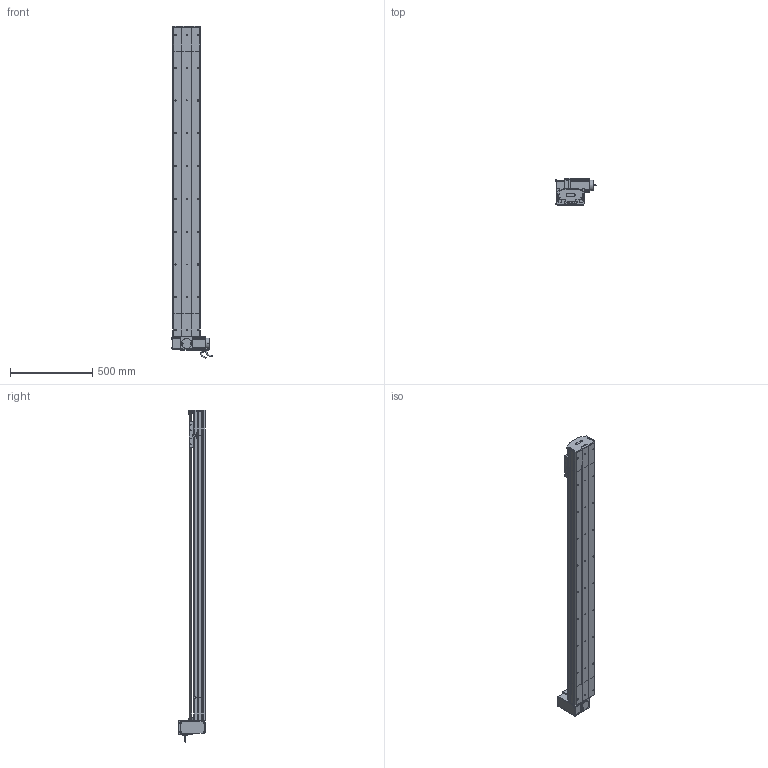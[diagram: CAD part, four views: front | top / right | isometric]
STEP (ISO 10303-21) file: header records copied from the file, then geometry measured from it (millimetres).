
FILE_DESCRIPTION (( 'STEP AP214' ), '1' );
FILE_NAME ('D17 TBH RT S1600.STEP', '2010-06-30T08:11:57', ( 'Christophe Gaillard' ), ( 'SGA' ), 'SwSTEP 2.0', 'SolidWorks 2010', '' );
FILE_SCHEMA (( 'AUTOMOTIVE_DESIGN' ));
Length unit declared in the file: millimetre
Products named in the file (40): codeur 90BLDC125-640; Moteur motionking 90BLDC125A-640; corps 90BLDC125A-640; vis M5 L5_Default; D17 TBH RT S1600; cache D17_Default; course 1600 D17B_Default; Couroie+ rail D17 Course 1600 ; Arbre+rail head D17B; plaque de  bout head D17B RT_Default; couvercle D17B head_Default; corp D17B 1600_Default; couroie head D17_Default; corpl head D17 _Default; Head RT D17B_Default; couvercle D17B course L1600_Default; avant 90BLDC125A-640; vis M5 L70_Default; Conecteur_Default; Conecteur2_Default; cache arbre D17_Default; Vis M5 L16-2_Default; vis M5 L16_Default; Plaque racord D17_Default; corpl tail D17B_Default; Tail D17B_Default; Renvoi RT_Default; plaque de  bout tail D17B_Default; Rail D17B; tete d''axe poulie D17B; couvercle D17B_Default; Couroie tail D17B_Default; poulie tail_Default; chariot D17S_Default; vis M5 L25_Default; vis M5 L8 90°_Default; vis M5 L12_Default; guide D17; Chariot D17; poulie head_Default
Assembly tree (70 placements, depth 4):
  D17 TBH RT S1600
    Tail D17B_Default
      Rail D17B
      vis M5 L25_Default  x2
      vis M5 L8 90°_Default  x2
      plaque de  bout tail D17B_Default
      vis M5 L12_Default  x4
      couvercle D17B_Default
      Couroie tail D17B_Default
      poulie tail_Default
      tete d''axe poulie D17B
      corpl tail D17B_Default
    Head RT D17B_Default
      vis M5 L16_Default  x2
      vis M5 L70_Default  x4
      Moteur motionking 90BLDC125A-640
        corps 90BLDC125A-640
        Conecteur_Default
        codeur 90BLDC125-640
        avant 90BLDC125A-640
        Conecteur2_Default
      plaque de  bout head D17B RT_Default
      couroie head D17_Default
      vis M5 L12_Default  x8
      vis M5 L25_Default  x2
      Vis M5 L16-2_Default  x4
      vis M5 L5_Default  x4
      cache D17_Default  x2
      poulie head_Default
      Plaque racord D17_Default
      Renvoi RT_Default
      cache arbre D17_Default
      corpl head D17 _Default
      Arbre+rail head D17B
      couvercle D17B head_Default
    course 1600 D17B_Default
      couvercle D17B course L1600_Default
      Couroie+ rail D17 Course 1600 
      corp D17B 1600_Default
    chariot D17S_Default
      vis M5 L12_Default  x4
      Chariot D17
      guide D17  x2
Bounding box: 245.2 x 166.15 x 2023.95 mm (x, y, z)
Volume: 12251688 mm3; surface area: 3486264.8 mm2
Topology: 94 solids, 94 shells, 2689 faces, 6777 edges, 4362 vertices
Faces by surface type: plane 1607, cylinder 769, bspline 136, cone 88, torus 85, sphere 4
Entity records: 84264 total; most frequent: CARTESIAN_POINT 24917, ORIENTED_EDGE 10326, DIRECTION 9804, EDGE_CURVE 5163, VECTOR 3438, LINE 3438, VERTEX_POINT 3386, AXIS2_PLACEMENT_3D 3183
